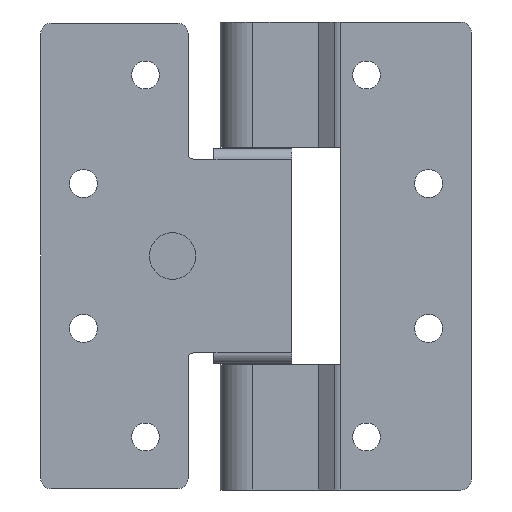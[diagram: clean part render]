
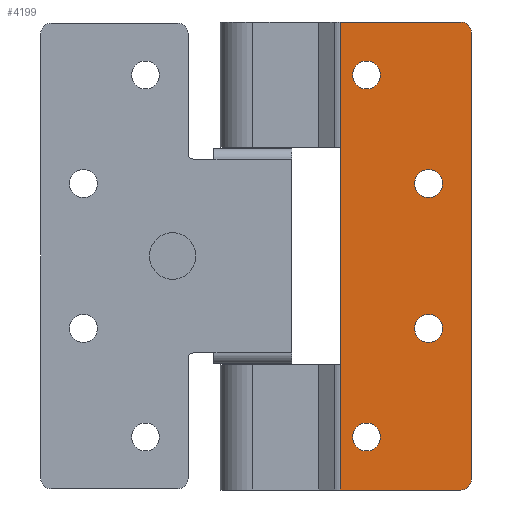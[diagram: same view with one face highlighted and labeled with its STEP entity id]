
A CAD part, front view. The second image highlights one B-rep face of the part: STEP entity #4199.
In plain terms, the highlighted planar face has unit normal (0, -1, 0).
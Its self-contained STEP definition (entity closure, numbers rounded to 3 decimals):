
#78 = VECTOR ( 'NONE', #1032, 1000. ) ;
#182 = LINE ( 'NONE', #5695, #11595 ) ;
#282 = CIRCLE ( 'NONE', #8591, 2.7 ) ;
#435 = ORIENTED_EDGE ( 'NONE', *, *, #4905, .F. ) ;
#473 = ORIENTED_EDGE ( 'NONE', *, *, #4785, .F. ) ;
#584 = EDGE_CURVE ( 'NONE', #1269, #10979, #5432, .T. ) ;
#648 = CARTESIAN_POINT ( 'NONE',  ( 12.567, -4.962, -21. ) ) ;
#687 = DIRECTION ( 'NONE',  ( 1., 0., 0. ) ) ;
#700 = VERTEX_POINT ( 'NONE', #4372 ) ;
#815 = CIRCLE ( 'NONE', #11052, 2. ) ;
#955 = VECTOR ( 'NONE', #4205, 1000. ) ;
#1032 = DIRECTION ( 'NONE',  ( 0., 0., -1. ) ) ;
#1106 = AXIS2_PLACEMENT_3D ( 'NONE', #11530, #11637, #4196 ) ;
#1129 = EDGE_CURVE ( 'NONE', #8359, #9437, #9494, .T. ) ;
#1190 = CARTESIAN_POINT ( 'NONE',  ( 17.676, -4.962, -35. ) ) ;
#1248 = CARTESIAN_POINT ( 'NONE',  ( 12.567, -4.962, 45.25 ) ) ;
#1269 = VERTEX_POINT ( 'NONE', #6254 ) ;
#1272 = DIRECTION ( 'NONE',  ( 0., -1., 0. ) ) ;
#1299 = EDGE_LOOP ( 'NONE', ( #1649, #11026 ) ) ;
#1532 = ORIENTED_EDGE ( 'NONE', *, *, #11634, .F. ) ;
#1545 = VERTEX_POINT ( 'NONE', #10578 ) ;
#1572 = DIRECTION ( 'NONE',  ( 1., 0., 0. ) ) ;
#1649 = ORIENTED_EDGE ( 'NONE', *, *, #1129, .F. ) ;
#1843 = CARTESIAN_POINT ( 'NONE',  ( 12.567, -4.962, 45.25 ) ) ;
#2040 = DIRECTION ( 'NONE',  ( 1., 0., 0. ) ) ;
#2106 = ORIENTED_EDGE ( 'NONE', *, *, #8698, .F. ) ;
#2145 = FACE_BOUND ( 'NONE', #1299, .T. ) ;
#2158 = CARTESIAN_POINT ( 'NONE',  ( 37.926, -4.962, 45.25 ) ) ;
#2322 = DIRECTION ( 'NONE',  ( 0., -1., 0. ) ) ;
#2343 = DIRECTION ( 'NONE',  ( 1., 0., 0. ) ) ;
#2437 = CARTESIAN_POINT ( 'NONE',  ( 29.676, -4.962, -16.7 ) ) ;
#2637 = DIRECTION ( 'NONE',  ( 1., 0., 0. ) ) ;
#2707 = EDGE_CURVE ( 'NONE', #8247, #10216, #3927, .T. ) ;
#2721 = EDGE_LOOP ( 'NONE', ( #2106, #6746, #8930, #10028, #4636, #8278, #11135, #8895 ) ) ;
#2793 = VECTOR ( 'NONE', #5992, 1000. ) ;
#2799 = CIRCLE ( 'NONE', #11830, 2.7 ) ;
#2830 = LINE ( 'NONE', #6522, #4930 ) ;
#3138 = DIRECTION ( 'NONE',  ( 0., -1., 0. ) ) ;
#3236 = VERTEX_POINT ( 'NONE', #1248 ) ;
#3594 = VERTEX_POINT ( 'NONE', #10571 ) ;
#3675 = EDGE_CURVE ( 'NONE', #6269, #3681, #8035, .T. ) ;
#3681 = VERTEX_POINT ( 'NONE', #10804 ) ;
#3767 = CIRCLE ( 'NONE', #8785, 2.7 ) ;
#3927 = CIRCLE ( 'NONE', #7014, 2. ) ;
#3944 = DIRECTION ( 'NONE',  ( 0., 0., 1. ) ) ;
#3984 = FACE_BOUND ( 'NONE', #6251, .T. ) ;
#4153 = CARTESIAN_POINT ( 'NONE',  ( 37.926, -4.962, 43.25 ) ) ;
#4196 = DIRECTION ( 'NONE',  ( 1., 0., 0. ) ) ;
#4199 = ADVANCED_FACE ( 'NONE', ( #11209, #3984, #11275, #2145, #5735 ), #9360, .T. ) ;
#4205 = DIRECTION ( 'NONE',  ( 0., 0., -1. ) ) ;
#4220 = CARTESIAN_POINT ( 'NONE',  ( 17.676, -4.962, 35. ) ) ;
#4259 = LINE ( 'NONE', #7935, #955 ) ;
#4372 = CARTESIAN_POINT ( 'NONE',  ( 35.926, -4.962, 45.25 ) ) ;
#4636 = ORIENTED_EDGE ( 'NONE', *, *, #4990, .F. ) ;
#4785 = EDGE_CURVE ( 'NONE', #1545, #3594, #282, .T. ) ;
#4838 = DIRECTION ( 'NONE',  ( 0., -1., 0. ) ) ;
#4905 = EDGE_CURVE ( 'NONE', #5125, #7253, #9535, .T. ) ;
#4930 = VECTOR ( 'NONE', #5617, 1000. ) ;
#4960 = CARTESIAN_POINT ( 'NONE',  ( 29.676, -4.962, -14. ) ) ;
#4990 = EDGE_CURVE ( 'NONE', #9713, #10216, #6898, .T. ) ;
#5084 = CARTESIAN_POINT ( 'NONE',  ( 29.676, -4.962, 14. ) ) ;
#5125 = VERTEX_POINT ( 'NONE', #9957 ) ;
#5239 = EDGE_CURVE ( 'NONE', #9713, #700, #815, .T. ) ;
#5263 = CARTESIAN_POINT ( 'NONE',  ( 12.567, -4.962, 21. ) ) ;
#5416 = ORIENTED_EDGE ( 'NONE', *, *, #6702, .F. ) ;
#5432 = CIRCLE ( 'NONE', #8132, 2.7 ) ;
#5617 = DIRECTION ( 'NONE',  ( -1., 0., 0. ) ) ;
#5666 = DIRECTION ( 'NONE',  ( 1., 0., 0. ) ) ;
#5695 = CARTESIAN_POINT ( 'NONE',  ( 12.567, -4.962, 45.25 ) ) ;
#5735 = FACE_OUTER_BOUND ( 'NONE', #2721, .T. ) ;
#5745 = DIRECTION ( 'NONE',  ( -1., 0., 0. ) ) ;
#5824 = DIRECTION ( 'NONE',  ( 0., -1., 0. ) ) ;
#5884 = ORIENTED_EDGE ( 'NONE', *, *, #584, .F. ) ;
#5919 = CARTESIAN_POINT ( 'NONE',  ( 17.676, -4.962, -35. ) ) ;
#5932 = CARTESIAN_POINT ( 'NONE',  ( 37.926, -4.962, 45.25 ) ) ;
#5992 = DIRECTION ( 'NONE',  ( 0., 0., -1. ) ) ;
#6251 = EDGE_LOOP ( 'NONE', ( #5416, #5884 ) ) ;
#6254 = CARTESIAN_POINT ( 'NONE',  ( 29.676, -4.962, 11.3 ) ) ;
#6269 = VERTEX_POINT ( 'NONE', #648 ) ;
#6342 = CIRCLE ( 'NONE', #1106, 2.7 ) ;
#6522 = CARTESIAN_POINT ( 'NONE',  ( 37.926, -4.962, -45.25 ) ) ;
#6702 = EDGE_CURVE ( 'NONE', #10979, #1269, #3767, .T. ) ;
#6746 = ORIENTED_EDGE ( 'NONE', *, *, #3675, .T. ) ;
#6898 = LINE ( 'NONE', #5932, #2793 ) ;
#6920 = EDGE_CURVE ( 'NONE', #8247, #3681, #2830, .T. ) ;
#6955 = CARTESIAN_POINT ( 'NONE',  ( 17.676, -4.962, 35. ) ) ;
#6965 = EDGE_CURVE ( 'NONE', #700, #3236, #9488, .T. ) ;
#6985 = AXIS2_PLACEMENT_3D ( 'NONE', #4960, #3138, #8764 ) ;
#7014 = AXIS2_PLACEMENT_3D ( 'NONE', #10745, #8830, #2343 ) ;
#7253 = VERTEX_POINT ( 'NONE', #10967 ) ;
#7384 = EDGE_CURVE ( 'NONE', #7253, #5125, #2799, .T. ) ;
#7639 = CARTESIAN_POINT ( 'NONE',  ( 29.676, -4.962, 14. ) ) ;
#7654 = EDGE_CURVE ( 'NONE', #3236, #9965, #4259, .T. ) ;
#7935 = CARTESIAN_POINT ( 'NONE',  ( 12.567, -4.962, 45.25 ) ) ;
#8035 = LINE ( 'NONE', #1843, #78 ) ;
#8132 = AXIS2_PLACEMENT_3D ( 'NONE', #7639, #5824, #1572 ) ;
#8247 = VERTEX_POINT ( 'NONE', #10570 ) ;
#8278 = ORIENTED_EDGE ( 'NONE', *, *, #5239, .T. ) ;
#8359 = VERTEX_POINT ( 'NONE', #10073 ) ;
#8390 = DIRECTION ( 'NONE',  ( 0., -1., 0. ) ) ;
#8496 = EDGE_LOOP ( 'NONE', ( #473, #1532 ) ) ;
#8591 = AXIS2_PLACEMENT_3D ( 'NONE', #1190, #4838, #2040 ) ;
#8640 = DIRECTION ( 'NONE',  ( 1., 0., 0. ) ) ;
#8665 = DIRECTION ( 'NONE',  ( 1., 0., 0. ) ) ;
#8698 = EDGE_CURVE ( 'NONE', #6269, #9965, #182, .T. ) ;
#8722 = ORIENTED_EDGE ( 'NONE', *, *, #7384, .F. ) ;
#8764 = DIRECTION ( 'NONE',  ( 1., 0., 0. ) ) ;
#8785 = AXIS2_PLACEMENT_3D ( 'NONE', #5084, #1272, #8665 ) ;
#8830 = DIRECTION ( 'NONE',  ( 0., -1., 0. ) ) ;
#8895 = ORIENTED_EDGE ( 'NONE', *, *, #7654, .T. ) ;
#8930 = ORIENTED_EDGE ( 'NONE', *, *, #6920, .F. ) ;
#8934 = CARTESIAN_POINT ( 'NONE',  ( 35.926, -4.962, 43.25 ) ) ;
#9131 = AXIS2_PLACEMENT_3D ( 'NONE', #6955, #9556, #10737 ) ;
#9360 = PLANE ( 'NONE',  #9932 ) ;
#9437 = VERTEX_POINT ( 'NONE', #2437 ) ;
#9488 = LINE ( 'NONE', #2158, #11820 ) ;
#9494 = CIRCLE ( 'NONE', #6985, 2.7 ) ;
#9535 = CIRCLE ( 'NONE', #9131, 2.7 ) ;
#9556 = DIRECTION ( 'NONE',  ( 0., -1., 0. ) ) ;
#9557 = CARTESIAN_POINT ( 'NONE',  ( 29.676, -4.962, 16.7 ) ) ;
#9603 = DIRECTION ( 'NONE',  ( 0., -1., 0. ) ) ;
#9713 = VERTEX_POINT ( 'NONE', #4153 ) ;
#9932 = AXIS2_PLACEMENT_3D ( 'NONE', #11393, #8390, #8640 ) ;
#9957 = CARTESIAN_POINT ( 'NONE',  ( 17.676, -4.962, 32.3 ) ) ;
#9965 = VERTEX_POINT ( 'NONE', #5263 ) ;
#9999 = EDGE_CURVE ( 'NONE', #9437, #8359, #6342, .T. ) ;
#10028 = ORIENTED_EDGE ( 'NONE', *, *, #2707, .T. ) ;
#10073 = CARTESIAN_POINT ( 'NONE',  ( 29.676, -4.962, -11.3 ) ) ;
#10216 = VERTEX_POINT ( 'NONE', #10592 ) ;
#10218 = AXIS2_PLACEMENT_3D ( 'NONE', #5919, #9603, #5666 ) ;
#10570 = CARTESIAN_POINT ( 'NONE',  ( 35.926, -4.962, -45.25 ) ) ;
#10571 = CARTESIAN_POINT ( 'NONE',  ( 17.676, -4.962, -37.7 ) ) ;
#10578 = CARTESIAN_POINT ( 'NONE',  ( 17.676, -4.962, -32.3 ) ) ;
#10592 = CARTESIAN_POINT ( 'NONE',  ( 37.926, -4.962, -43.25 ) ) ;
#10737 = DIRECTION ( 'NONE',  ( 1., 0., 0. ) ) ;
#10740 = EDGE_LOOP ( 'NONE', ( #8722, #435 ) ) ;
#10745 = CARTESIAN_POINT ( 'NONE',  ( 35.926, -4.962, -43.25 ) ) ;
#10800 = CIRCLE ( 'NONE', #10218, 2.7 ) ;
#10804 = CARTESIAN_POINT ( 'NONE',  ( 12.567, -4.962, -45.25 ) ) ;
#10909 = DIRECTION ( 'NONE',  ( 0., -1., 0. ) ) ;
#10967 = CARTESIAN_POINT ( 'NONE',  ( 17.676, -4.962, 37.7 ) ) ;
#10979 = VERTEX_POINT ( 'NONE', #9557 ) ;
#11026 = ORIENTED_EDGE ( 'NONE', *, *, #9999, .F. ) ;
#11052 = AXIS2_PLACEMENT_3D ( 'NONE', #8934, #10909, #2637 ) ;
#11135 = ORIENTED_EDGE ( 'NONE', *, *, #6965, .T. ) ;
#11209 = FACE_BOUND ( 'NONE', #10740, .T. ) ;
#11275 = FACE_BOUND ( 'NONE', #8496, .T. ) ;
#11393 = CARTESIAN_POINT ( 'NONE',  ( 37.926, -4.962, 45.25 ) ) ;
#11530 = CARTESIAN_POINT ( 'NONE',  ( 29.676, -4.962, -14. ) ) ;
#11595 = VECTOR ( 'NONE', #3944, 1000. ) ;
#11634 = EDGE_CURVE ( 'NONE', #3594, #1545, #10800, .T. ) ;
#11637 = DIRECTION ( 'NONE',  ( 0., -1., 0. ) ) ;
#11820 = VECTOR ( 'NONE', #5745, 1000. ) ;
#11830 = AXIS2_PLACEMENT_3D ( 'NONE', #4220, #2322, #687 ) ;
